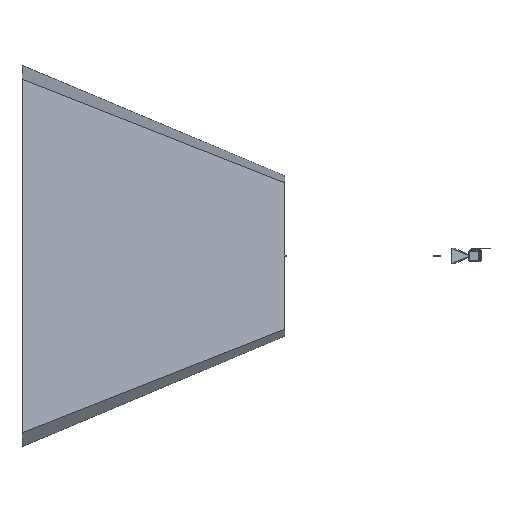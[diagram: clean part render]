
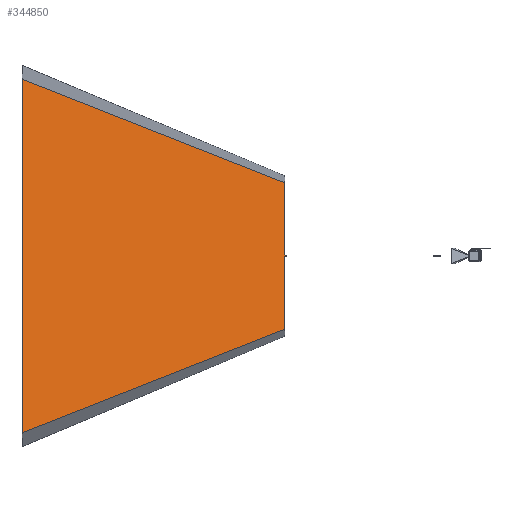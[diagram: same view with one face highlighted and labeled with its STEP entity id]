
A CAD part, left-side view. The second image highlights one B-rep face of the part: STEP entity #344850.
In plain terms, the highlighted planar face has unit normal (-0.924, -0.382, 0).
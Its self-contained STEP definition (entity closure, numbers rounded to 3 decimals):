
#12289 = AXIS2_PLACEMENT_3D ( 'NONE', #384870, #19742, #223907 ) ;
#19742 = DIRECTION ( 'NONE',  ( -0.924, -0.382, 0. ) ) ;
#20840 = CARTESIAN_POINT ( 'NONE',  ( -1460.226, 3000., -1176.574 ) ) ;
#34784 = CARTESIAN_POINT ( 'NONE',  ( -241.784, 52.107, 15.987 ) ) ;
#53141 = ORIENTED_EDGE ( 'NONE', *, *, #271634, .F. ) ;
#66920 = CARTESIAN_POINT ( 'NONE',  ( -1460.226, 3000., 1176.574 ) ) ;
#68685 = VERTEX_POINT ( 'NONE', #66920 ) ;
#78311 = LINE ( 'NONE', #398240, #211323 ) ;
#79719 = ORIENTED_EDGE ( 'NONE', *, *, #388807, .T. ) ;
#92177 = CARTESIAN_POINT ( 'NONE',  ( -241.784, 52.107, -15.987 ) ) ;
#102029 = VECTOR ( 'NONE', #190423, 1000. ) ;
#137712 = LINE ( 'NONE', #233890, #189930 ) ;
#139178 = DIRECTION ( 'NONE',  ( 0.359, -0.868, -0.342 ) ) ;
#152958 = EDGE_LOOP ( 'NONE', ( #291128, #374984, #79719, #53141 ) ) ;
#176580 = DIRECTION ( 'NONE',  ( 0., 0., -1. ) ) ;
#189930 = VECTOR ( 'NONE', #353210, 1000. ) ;
#190423 = DIRECTION ( 'NONE',  ( 0.359, -0.868, 0.342 ) ) ;
#211323 = VECTOR ( 'NONE', #176580, 1000. ) ;
#223907 = DIRECTION ( 'NONE',  ( 0.382, -0.924, 0. ) ) ;
#227538 = EDGE_CURVE ( 'NONE', #68685, #316132, #137712, .T. ) ;
#233890 = CARTESIAN_POINT ( 'NONE',  ( -1460.226, 3000., 0. ) ) ;
#235458 = CARTESIAN_POINT ( 'NONE',  ( -736.905, 1250., -487.598 ) ) ;
#257310 = FACE_OUTER_BOUND ( 'NONE', #152958, .T. ) ;
#263924 = VERTEX_POINT ( 'NONE', #349172 ) ;
#271634 = EDGE_CURVE ( 'NONE', #263924, #302546, #78311, .T. ) ;
#282286 = VECTOR ( 'NONE', #139178, 1000. ) ;
#291128 = ORIENTED_EDGE ( 'NONE', *, *, #300590, .F. ) ;
#300590 = EDGE_CURVE ( 'NONE', #68685, #263924, #352612, .T. ) ;
#302546 = VERTEX_POINT ( 'NONE', #235458 ) ;
#310292 = PLANE ( 'NONE',  #12289 ) ;
#315900 = LINE ( 'NONE', #92177, #102029 ) ;
#316132 = VERTEX_POINT ( 'NONE', #20840 ) ;
#344850 = ADVANCED_FACE ( 'NONE', ( #257310 ), #310292, .T. ) ;
#349172 = CARTESIAN_POINT ( 'NONE',  ( -736.905, 1250., 487.598 ) ) ;
#352612 = LINE ( 'NONE', #34784, #282286 ) ;
#353210 = DIRECTION ( 'NONE',  ( 0., 0., -1. ) ) ;
#374984 = ORIENTED_EDGE ( 'NONE', *, *, #227538, .T. ) ;
#384870 = CARTESIAN_POINT ( 'NONE',  ( -241.784, 52.107, 0. ) ) ;
#388807 = EDGE_CURVE ( 'NONE', #316132, #302546, #315900, .T. ) ;
#398240 = CARTESIAN_POINT ( 'NONE',  ( -736.905, 1250., 0. ) ) ;
